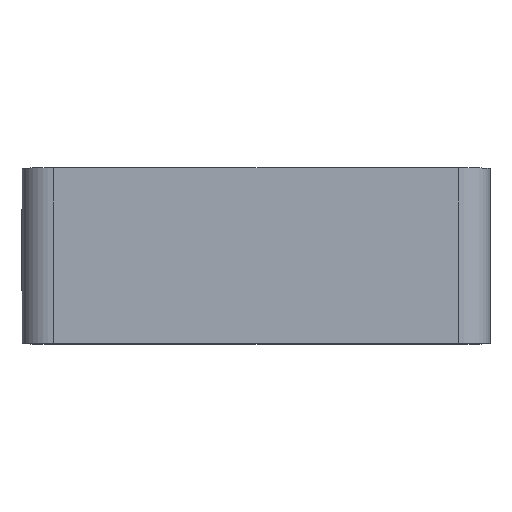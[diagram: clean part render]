
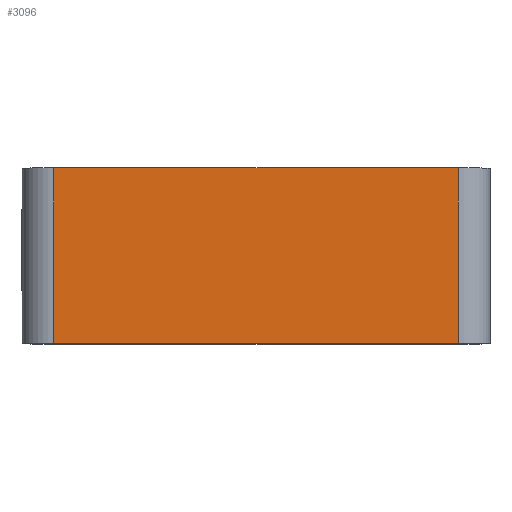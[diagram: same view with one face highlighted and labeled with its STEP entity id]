
A CAD part, top view. The second image highlights one B-rep face of the part: STEP entity #3096.
In plain terms, the highlighted planar face has unit normal (0, 0, 1).
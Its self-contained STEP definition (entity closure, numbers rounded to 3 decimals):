
#575 = ORIENTED_EDGE ( 'NONE', *, *, #3963, .T. ) ;
#925 = DIRECTION ( 'NONE',  ( 0., -1., 0. ) ) ;
#1025 = LINE ( 'NONE', #1880, #5984 ) ;
#1130 = LINE ( 'NONE', #3413, #2234 ) ;
#1506 = DIRECTION ( 'NONE',  ( 0., 0., -1. ) ) ;
#1634 = VECTOR ( 'NONE', #3062, 1000. ) ;
#1880 = CARTESIAN_POINT ( 'NONE',  ( -25.4, 11.1, 33.75 ) ) ;
#1990 = CARTESIAN_POINT ( 'NONE',  ( 25.4, -10.9, 33.75 ) ) ;
#2155 = VERTEX_POINT ( 'NONE', #9710 ) ;
#2234 = VECTOR ( 'NONE', #7231, 1000. ) ;
#2274 = PLANE ( 'NONE',  #6767 ) ;
#2315 = FACE_OUTER_BOUND ( 'NONE', #8545, .T. ) ;
#2589 = VERTEX_POINT ( 'NONE', #3251 ) ;
#3062 = DIRECTION ( 'NONE',  ( -1., 0., 0. ) ) ;
#3077 = ORIENTED_EDGE ( 'NONE', *, *, #5049, .F. ) ;
#3096 = ADVANCED_FACE ( 'NONE', ( #2315 ), #2274, .F. ) ;
#3251 = CARTESIAN_POINT ( 'NONE',  ( 25.4, -10.9, 33.75 ) ) ;
#3413 = CARTESIAN_POINT ( 'NONE',  ( 25.4, 11., 33.75 ) ) ;
#3775 = LINE ( 'NONE', #1990, #1634 ) ;
#3963 = EDGE_CURVE ( 'NONE', #2589, #7085, #1130, .T. ) ;
#4042 = EDGE_CURVE ( 'NONE', #2155, #7660, #8844, .T. ) ;
#4076 = EDGE_CURVE ( 'NONE', #2155, #7085, #1025, .T. ) ;
#4217 = CARTESIAN_POINT ( 'NONE',  ( -25.4, -10.9, 33.75 ) ) ;
#4888 = ORIENTED_EDGE ( 'NONE', *, *, #4042, .T. ) ;
#5049 = EDGE_CURVE ( 'NONE', #2589, #7660, #3775, .T. ) ;
#5337 = VECTOR ( 'NONE', #925, 1000. ) ;
#5390 = CARTESIAN_POINT ( 'NONE',  ( 29.4, 11., 33.75 ) ) ;
#5431 = DIRECTION ( 'NONE',  ( -1., 0., 0. ) ) ;
#5984 = VECTOR ( 'NONE', #6474, 1000. ) ;
#6230 = CARTESIAN_POINT ( 'NONE',  ( 25.4, 11.1, 33.75 ) ) ;
#6309 = ORIENTED_EDGE ( 'NONE', *, *, #4076, .F. ) ;
#6474 = DIRECTION ( 'NONE',  ( 1., 0., 0. ) ) ;
#6767 = AXIS2_PLACEMENT_3D ( 'NONE', #5390, #1506, #5431 ) ;
#7085 = VERTEX_POINT ( 'NONE', #6230 ) ;
#7231 = DIRECTION ( 'NONE',  ( 0., 1., 0. ) ) ;
#7660 = VERTEX_POINT ( 'NONE', #4217 ) ;
#8545 = EDGE_LOOP ( 'NONE', ( #3077, #575, #6309, #4888 ) ) ;
#8753 = CARTESIAN_POINT ( 'NONE',  ( -25.4, 11., 33.75 ) ) ;
#8844 = LINE ( 'NONE', #8753, #5337 ) ;
#9710 = CARTESIAN_POINT ( 'NONE',  ( -25.4, 11.1, 33.75 ) ) ;
